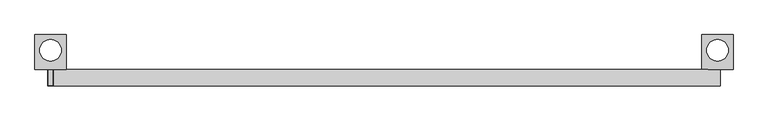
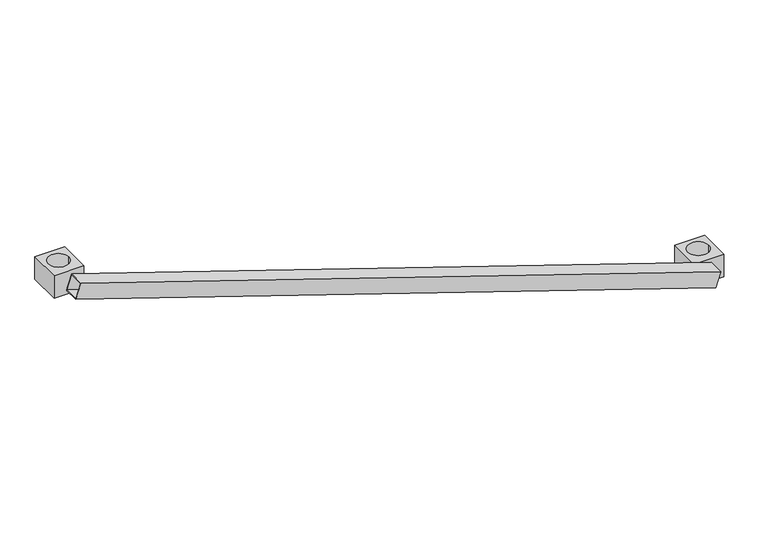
"""IFC4 building model written with IfcOpenShell, lengths in millimetres: proxy geometry, AK_アルバトロスAK伸縮斜材 : H0900×L1500."""

from ifc_helpers import new_model, si_unit, point, frame, frame_2d, origin, place, context, project, spatial, polyline, circle_curve, trimmed, segment, composite_curve, outline, extrude, source, transform, mapped, element, save


def generic_models_47678d16(model_context):
    return source(origin(), model_context, "Body", "SweptSolid", [
        extrude(outline(polyline([(0.0, 0.0), (0.0, -38.0), (-38.0, -38.0), (-38.0, 0.0), (0.0, 0.0)]), holes=[polyline([(-2.0, -2.0), (-36.0, -2.0), (-36.0, -36.0), (-2.0, -36.0), (-2.0, -2.0)])]), frame((5.9692101, 19.0, 18.0379747), z_axis=(-0.949367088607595, 0.0, 0.3141689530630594), x_axis=(0.3141689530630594, 0.0, 0.949367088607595)), (0.0, 0.0, 1.0), 1580.0),
        extrude(outline(polyline([(35.0, 96.8842695), (35.0, 19.0), (-35.0, 19.0), (-35.0, 96.8842695), (35.0, 96.8842695)]), holes=[composite_curve([segment(trimmed(circle_curve(frame_2d((0.0, 61.8842695)), 24.3), [point((24.3, 61.8842695))], [point((-24.3, 61.8842695))], True, "CARTESIAN"), True, "CONTINUOUS"), segment(trimmed(circle_curve(frame_2d((0.0, 61.8842695)), 24.3), [point((-24.3, 61.8842695))], [point((24.3, 61.8842695))], True, "CARTESIAN"), True, "CONTINUOUS")], self_intersect=False)]), frame((0.0, 0.0, -27.7559086), z_axis=(0.0, 0.0, 1.0), x_axis=(1.0, 0.0, 0.0)), (0.0, 0.0, 1.0), 55.5118171),
        extrude(outline(polyline([(-1465.0, 19.0), (-1535.0, 19.0), (-1535.0, 96.8842695), (-1465.0, 96.8842695), (-1465.0, 19.0)]), holes=[composite_curve([segment(trimmed(circle_curve(frame_2d((-1500.0, 61.8842695)), 24.3), [point((-1475.7, 61.8842695))], [point((-1524.3, 61.8842695))], True, "CARTESIAN"), True, "CONTINUOUS"), segment(trimmed(circle_curve(frame_2d((-1500.0, 61.8842695)), 24.3), [point((-1524.3, 61.8842695))], [point((-1475.7, 61.8842695))], True, "CARTESIAN"), True, "CONTINUOUS")], self_intersect=False)]), frame((0.0, 0.0, 468.6310373), z_axis=(0.0, 0.0, 1.0), x_axis=(1.0, 0.0, 0.0)), (0.0, 0.0, 1.0), 55.5118171),
    ])


if __name__ == "__main__":
    model = new_model("IFC4")
    model_context = context("Model", 3, world=origin())
    ifc_project = project(units=[si_unit("LENGTHUNIT", "METRE", prefix="MILLI")], contexts=[model_context])
    site = spatial("IfcSite", under=ifc_project)
    building = spatial("IfcBuilding", under=site)
    placement = place(None, origin())
    generic_models_shape = generic_models_47678d16(model_context)
    element("IfcBuildingElementProxy", 1, Name="AK_アルバトロスAK伸縮斜材 : H0900×L1500", ObjectType="AK_アルバトロスAK伸縮斜材 : H0900×L1500", at=placement, inside=building, context=model_context, shape_type="MappedRepresentation", body=[
        mapped(generic_models_shape, transform((0.0, 0.0, 0.0), x_axis=(1.0, 0.0, 0.0), y_axis=(0.0, 1.0, 0.0), z_axis=(0.0, 0.0, 1.0))),
    ])
    save(model, "model.ifc")
